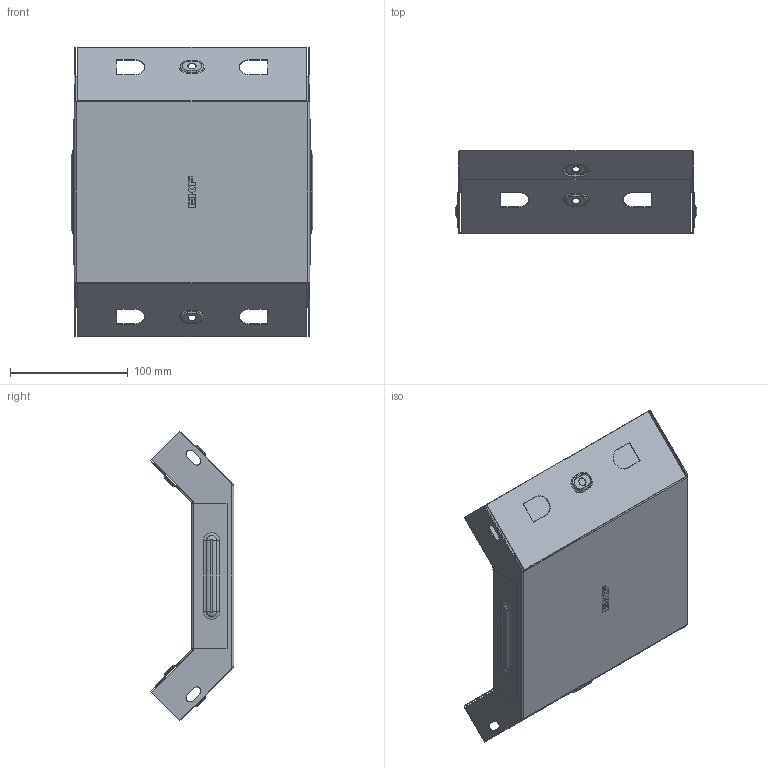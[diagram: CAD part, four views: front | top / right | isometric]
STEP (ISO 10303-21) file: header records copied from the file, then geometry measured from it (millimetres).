
FILE_DESCRIPTION (( 'STEP AP214' ), '1' );
FILE_NAME ('vi9035200_捘.STEP', '2019-06-10T09:17:26', ( '砐錪賧瘔蠈錪 Windows' ), ( '' ), 'SwSTEP 2.0', 'SolidWorks 2018', '' );
FILE_SCHEMA (( 'AUTOMOTIVE_DESIGN' ));
Length unit declared in the file: millimetre
Products named in the file (1): vi9035200_捘
Bounding box: 205.6 x 71.16 x 246.34 mm (x, y, z)
Volume: 98705.3 mm3; surface area: 249177.8 mm2
Topology: 2 solids, 2 shells, 432 faces, 1104 edges, 704 vertices
Faces by surface type: plane 234, cylinder 116, torus 64, bspline 18
Entity records: 13972 total; most frequent: CARTESIAN_POINT 3260, DIRECTION 2226, ORIENTED_EDGE 2208, EDGE_CURVE 1104, AXIS2_PLACEMENT_3D 743, LINE 740, VECTOR 740, VERTEX_POINT 704
